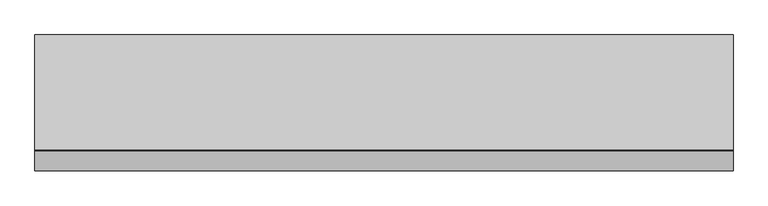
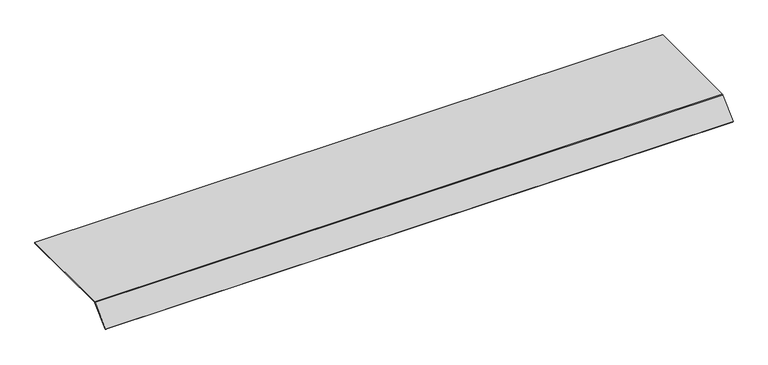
"""IFC4 building model written with IfcOpenShell, lengths in millimetres: proxy geometry, Electrical_Installation_Hager_Blank-Cover-800mm-Single-Sided-Height-70mm : Electrical_Installation_Hager_Blank-Cover-800mm-Single-Sided-Height-70mm."""

from ifc_helpers import new_model, si_unit, point, frame, frame_2d, origin, place, context, project, spatial, polyline, circle_curve, trimmed, segment, composite_curve, outline, extrude, source, transform, mapped, element, save


def electrical_fixtures_1ceebba5(model_context):
    return source(origin(), model_context, "Body", "SweptSolid", [
        extrude(outline(composite_curve([segment(polyline([(200.0, 40.5), (200.0, 37.5), (-199.8229541, 37.5)]), True, "CONTINUOUS"), segment(trimmed(circle_curve(frame_2d((-199.8229541, 36.0725733)), 1.4274267), [point((-199.8229541, 37.5))], [point((-200.8322972, 37.0819164))], True, "CARTESIAN"), True, "CONTINUOUS"), segment(polyline([(-200.8322972, 37.0819164), (-268.6627596, -30.7485461), (-270.78408, -28.6272257), (-202.8206472, 39.336207)]), True, "CONTINUOUS"), segment(trimmed(circle_curve(frame_2d((-200.0110025, 36.5265623)), 3.9734377), [point((-202.8206472, 39.336207))], [point((-200.0110025, 40.5))], False, "CARTESIAN"), True, "CONTINUOUS"), segment(polyline([(-200.0110025, 40.5), (200.0, 40.5)]), True, "CONTINUOUS")], self_intersect=False)), frame((0.0, 0.0, 0.0), z_axis=(1.0, 0.0, 0.0), x_axis=(0.0, 1.0, 0.0)), (0.0, 0.0, 1.0), 2421.5335139),
    ])


if __name__ == "__main__":
    model = new_model("IFC4")
    model_context = context("Model", 3, world=origin())
    ifc_project = project(units=[si_unit("LENGTHUNIT", "METRE", prefix="MILLI")], contexts=[model_context])
    site = spatial("IfcSite", under=ifc_project)
    building = spatial("IfcBuilding", under=site)
    placement = place(None, origin())
    electrical_fixtures_shape = electrical_fixtures_1ceebba5(model_context)
    element("IfcBuildingElementProxy", 1, Name="Electrical_Installation_Hager_Blank-Cover-800mm-Single-Sided-Height-70mm : Electrical_Installation_Hager_Blank-Cover-800mm-Single-Sided-Height-70mm", ObjectType="Electrical_Installation_Hager_Blank-Cover-800mm-Single-Sided-Height-70mm : Electrical_Installation_Hager_Blank-Cover-800mm-Single-Sided-Height-70mm", at=placement, inside=building, context=model_context, shape_type="MappedRepresentation", body=[
        mapped(electrical_fixtures_shape, transform((0.0, 0.0, 0.0), x_axis=(1.0, 0.0, 0.0), y_axis=(0.0, 1.0, 0.0), z_axis=(0.0, 0.0, 1.0))),
    ])
    save(model, "model.ifc")
